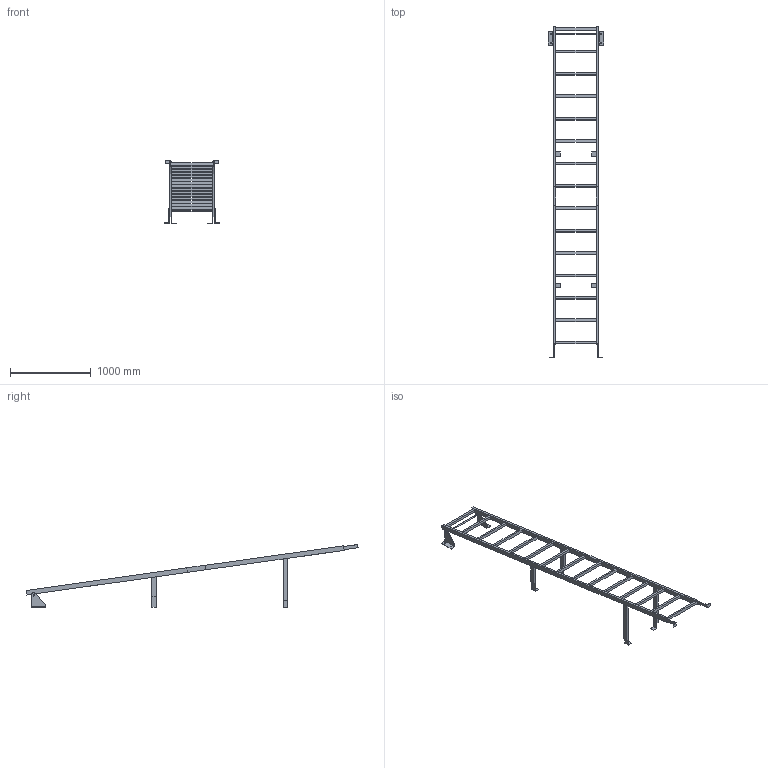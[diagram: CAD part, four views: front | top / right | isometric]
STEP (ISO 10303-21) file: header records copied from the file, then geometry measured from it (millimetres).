
FILE_DESCRIPTION((''),'2;1');
FILE_NAME('52309783','2024-10-17T09:06:15',('wep'),('HUBER SE'),'CREO PARAMETRIC BY PTC INC, 2022162','CREO PARAMETRIC BY PTC INC, 2022162','');
FILE_SCHEMA(('AUTOMOTIVE_DESIGN { 1 0 10303 214 1 1 1 1 }'));
Length unit declared in the file: millimetre
Products named in the file (1): 52309783
Bounding box: 690 x 4110.42 x 779 mm (x, y, z)
Volume: 20716456.1 mm3; surface area: 2769095.6 mm2
Topology: 11 solids, 11 shells, 192 faces, 492 edges, 328 vertices
Faces by surface type: plane 176, cylinder 16
Entity records: 6353 total; most frequent: CARTESIAN_POINT 1014, ORIENTED_EDGE 984, DIRECTION 908, EDGE_CURVE 492, VECTOR 460, LINE 460, VERTEX_POINT 328, EDGE_LOOP 236
